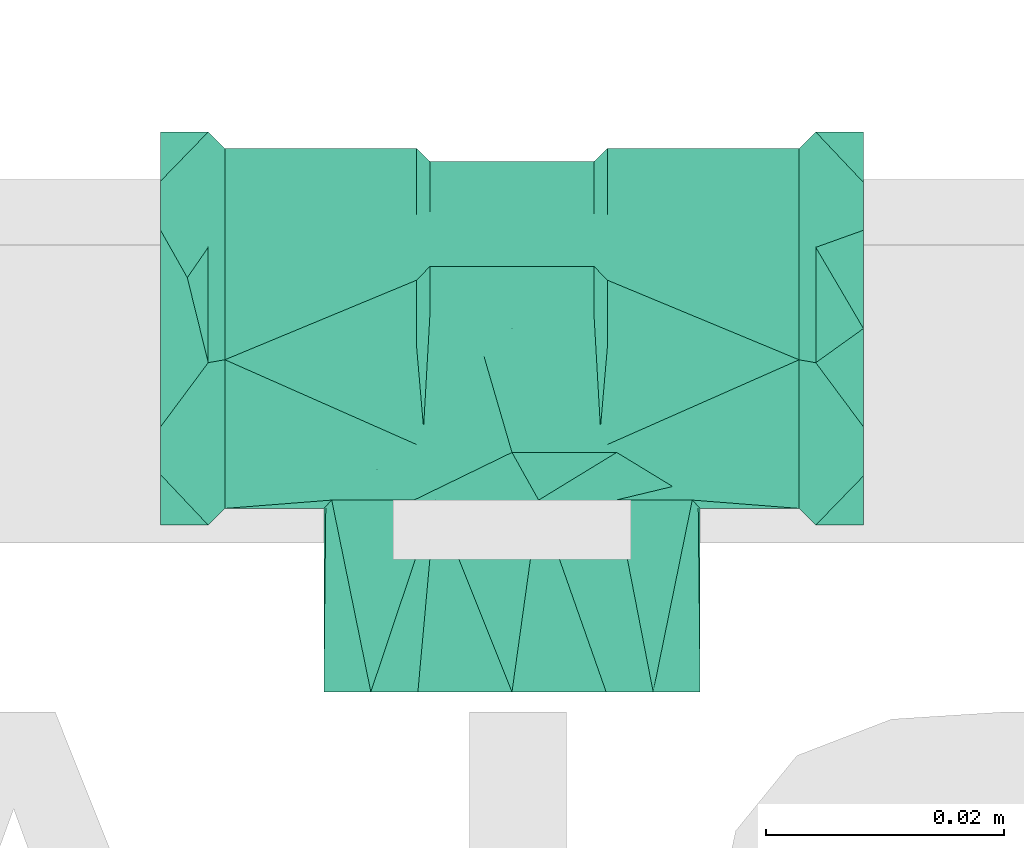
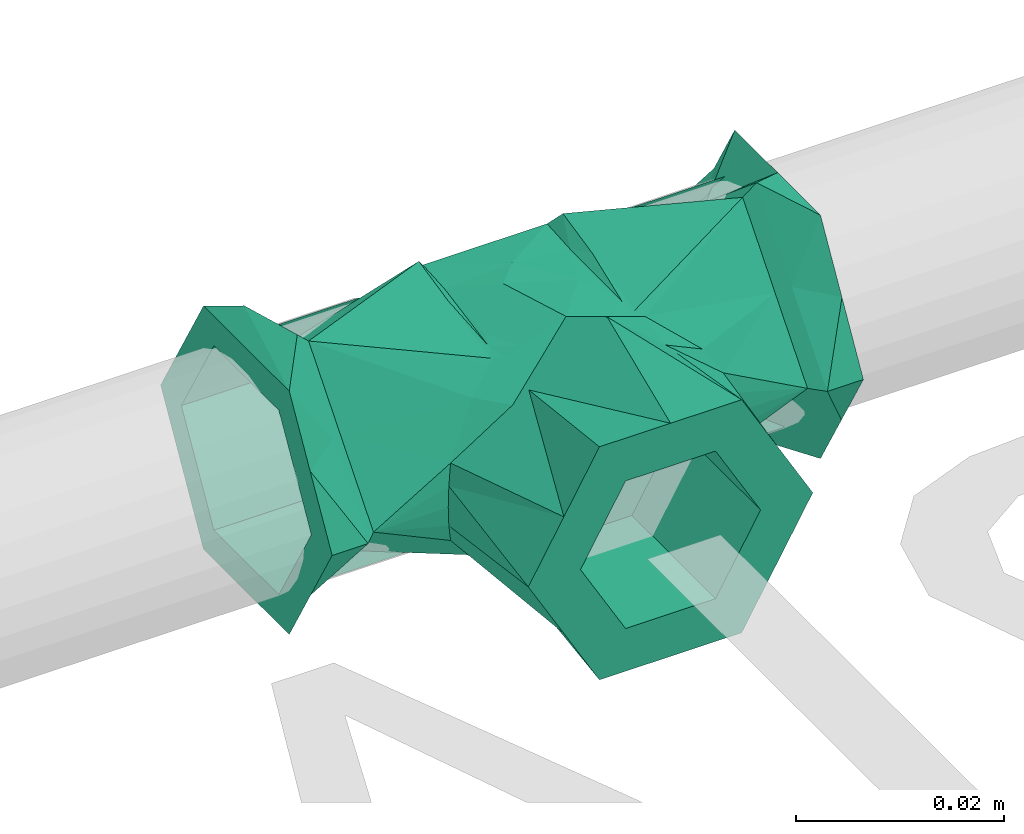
# One storey, part 349 of 589: 1 flow fitting.
"""IFC2X3 building model written with IfcOpenShell, lengths in millimetres."""

from ifc_helpers import new_model, entity, si_unit, converted_unit, derived_unit, direction, frame, origin, place, context, subcontext, project, spatial, faceted_brep, source, transform, mapped, material, type_object, type_shapes, element, save


model = new_model("IFC2X3")

# Units and contexts
model_context = context("Model", 3, precision=0.01, world=origin(), true_north=direction((6.123031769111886e-17, 1.0)))
body_context = subcontext(model_context, "Body", "Model", "MODEL_VIEW")
ifc_project = project(units=[si_unit("LENGTHUNIT", "METRE", prefix="MILLI"), si_unit("AREAUNIT", "SQUARE_METRE"), si_unit("VOLUMEUNIT", "CUBIC_METRE"), converted_unit("PLANEANGLEUNIT", "DEGREE", entity("IfcRatioMeasure", 0.017453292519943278), si_unit("PLANEANGLEUNIT", "RADIAN"), dimensions=[0, 0, 0, 0, 0, 0, 0]), si_unit("MASSUNIT", "GRAM", prefix="KILO"), derived_unit("MASSDENSITYUNIT", [(si_unit("MASSUNIT", "GRAM", prefix="KILO"), 1), (si_unit("LENGTHUNIT", "METRE"), -3)]), derived_unit("IONCONCENTRATIONUNIT", [(si_unit("MASSUNIT", "GRAM", prefix="KILO"), 1), (si_unit("LENGTHUNIT", "METRE"), -3)]), derived_unit("MOMENTOFINERTIAUNIT", [(si_unit("LENGTHUNIT", "METRE"), 4)]), si_unit("TIMEUNIT", "SECOND"), si_unit("FREQUENCYUNIT", "HERTZ"), si_unit("THERMODYNAMICTEMPERATUREUNIT", "DEGREE_CELSIUS"), derived_unit("THERMALTRANSMITTANCEUNIT", [(si_unit("MASSUNIT", "GRAM", prefix="KILO"), 1), (si_unit("THERMODYNAMICTEMPERATUREUNIT", "KELVIN"), -1), (si_unit("TIMEUNIT", "SECOND"), -3)]), derived_unit("THERMALCONDUCTANCEUNIT", [(si_unit("MASSUNIT", "GRAM", prefix="KILO"), 1), (si_unit("THERMODYNAMICTEMPERATUREUNIT", "KELVIN"), -1), (si_unit("TIMEUNIT", "SECOND"), -3), (si_unit("LENGTHUNIT", "METRE"), 1)]), derived_unit("VOLUMETRICFLOWRATEUNIT", [(si_unit("LENGTHUNIT", "METRE"), 3), (si_unit("TIMEUNIT", "SECOND"), -1)]), derived_unit("MASSFLOWRATEUNIT", [(si_unit("MASSUNIT", "GRAM", prefix="KILO"), 1), (si_unit("TIMEUNIT", "SECOND"), -1)]), derived_unit("ROTATIONALFREQUENCYUNIT", [(si_unit("TIMEUNIT", "SECOND"), -1)]), si_unit("ELECTRICCURRENTUNIT", "AMPERE"), si_unit("ELECTRICVOLTAGEUNIT", "VOLT"), si_unit("POWERUNIT", "WATT"), si_unit("FORCEUNIT", "NEWTON", prefix="KILO"), si_unit("ILLUMINANCEUNIT", "LUX"), si_unit("LUMINOUSFLUXUNIT", "LUMEN"), si_unit("LUMINOUSINTENSITYUNIT", "CANDELA"), derived_unit("USERDEFINED", [(si_unit("MASSUNIT", "GRAM", prefix="KILO"), -1), (si_unit("LENGTHUNIT", "METRE"), -2), (si_unit("TIMEUNIT", "SECOND"), 3), (si_unit("LUMINOUSFLUXUNIT", "LUMEN"), 1)]), derived_unit("USERDEFINED", [(si_unit("MASSUNIT", "GRAM", prefix="KILO"), 1), (si_unit("TIMEUNIT", "SECOND"), -3), (si_unit("LENGTHUNIT", "METRE"), 3), (si_unit("ELECTRICCURRENTUNIT", "AMPERE"), -2)]), derived_unit("SOUNDPOWERUNIT", [(si_unit("MASSUNIT", "GRAM", prefix="KILO"), 1), (si_unit("TIMEUNIT", "SECOND"), -3), (si_unit("LENGTHUNIT", "METRE"), 2)]), derived_unit("SOUNDPRESSUREUNIT", [(si_unit("MASSUNIT", "GRAM", prefix="KILO"), 1), (si_unit("LENGTHUNIT", "METRE"), -1), (si_unit("TIMEUNIT", "SECOND"), -2)]), derived_unit("LINEARVELOCITYUNIT", [(si_unit("LENGTHUNIT", "METRE"), 1), (si_unit("TIMEUNIT", "SECOND"), -1)]), si_unit("PRESSUREUNIT", "PASCAL"), derived_unit("USERDEFINED", [(si_unit("MASSUNIT", "GRAM", prefix="KILO"), 1), (si_unit("LENGTHUNIT", "METRE"), -2), (si_unit("TIMEUNIT", "SECOND"), -2)]), derived_unit("LINEARFORCEUNIT", [(si_unit("MASSUNIT", "GRAM", prefix="KILO"), 1), (si_unit("TIMEUNIT", "SECOND"), -2)]), derived_unit("PLANARFORCEUNIT", [(si_unit("MASSUNIT", "GRAM", prefix="KILO"), 1), (si_unit("LENGTHUNIT", "METRE"), -1), (si_unit("TIMEUNIT", "SECOND"), -2)]), derived_unit("SPECIFICHEATCAPACITYUNIT", [(si_unit("THERMODYNAMICTEMPERATUREUNIT", "KELVIN"), -1), (si_unit("LENGTHUNIT", "METRE"), 2), (si_unit("TIMEUNIT", "SECOND"), -2)]), derived_unit("HEATINGVALUEUNIT", [(si_unit("LENGTHUNIT", "METRE"), 2), (si_unit("TIMEUNIT", "SECOND"), -2)]), derived_unit("VAPORPERMEABILITYUNIT", [(si_unit("LENGTHUNIT", "METRE"), -1), (si_unit("TIMEUNIT", "SECOND"), 1)]), derived_unit("DYNAMICVISCOSITYUNIT", [(si_unit("MASSUNIT", "GRAM", prefix="KILO"), 1), (si_unit("TIMEUNIT", "SECOND"), -1), (si_unit("LENGTHUNIT", "METRE"), -1)]), derived_unit("THERMALEXPANSIONCOEFFICIENTUNIT", [(si_unit("THERMODYNAMICTEMPERATUREUNIT", "KELVIN"), -1)]), derived_unit("MODULUSOFELASTICITYUNIT", [(si_unit("MASSUNIT", "GRAM", prefix="KILO"), 1), (si_unit("LENGTHUNIT", "METRE"), -1), (si_unit("TIMEUNIT", "SECOND"), -2)]), derived_unit("ISOTHERMALMOISTURECAPACITYUNIT", [(si_unit("LENGTHUNIT", "METRE"), 3), (si_unit("MASSUNIT", "GRAM", prefix="KILO"), -1)]), derived_unit("MOISTUREDIFFUSIVITYUNIT", [(si_unit("TIMEUNIT", "SECOND"), -1), (si_unit("LENGTHUNIT", "METRE"), 2)])], contexts=[model_context])

# Site, building, storey
site_placement = place(None, origin())
site = spatial("IfcSite", under=ifc_project, at=site_placement, Name="Default", CompositionType="ELEMENT")
building_placement = place(site_placement, origin())
building = spatial("IfcBuilding", under=site, at=building_placement, CompositionType="ELEMENT")
storey_placement = place(building_placement, frame((0.0, 0.0, 100.0)))
storey = spatial("IfcBuildingStorey", under=building, at=storey_placement, Name="TÉRREO", CompositionType="ELEMENT", Elevation=100.0)

# Flow fitting
ifc_material = material(Name="PVC Azul")
pipe_fitting_type = type_object("IfcPipeFittingType", Name="PVC Marrom Soldável_Tê 90° Azul com Bucha de Latão_Rodrigo MEP:Tê_20x1/2''_ 25x1/2''_ 25x3/4''_ 32x3/4''", PredefinedType="NOTDEFINED", material=ifc_material)
shared_shape = source(origin(), body_context, "Body", "Brep", [
    faceted_brep([(-29.500000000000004, 6.250000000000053, -10.825317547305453), (-29.500000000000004, 12.5, 0.0), (-29.500000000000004, 8.250000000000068, -14.28941916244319), (-29.500000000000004, -6.249999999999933, -10.825317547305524), (-29.500000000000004, 12.26746212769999, -7.3309706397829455), (-29.500000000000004, 16.499999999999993, 0.0), (-29.500000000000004, 6.2500000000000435, 10.825317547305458), (-29.500000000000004, 12.375000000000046, 7.144709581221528), (-29.500000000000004, 8.25000000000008, 14.289419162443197), (-29.500000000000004, -6.249999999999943, 10.825317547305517), (-29.500000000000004, 0.0, 14.28941916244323), (-29.500000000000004, -8.249999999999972, 14.289419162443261), (-29.500000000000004, -12.267462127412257, 7.330970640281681), (-29.500000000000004, -16.500000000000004, 0.0), (-29.500000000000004, -12.5, 0.0), (-29.500000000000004, -8.250000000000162, -14.289419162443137), (-29.500000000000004, -12.37500000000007, -7.144709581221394), (-29.500000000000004, 0.0, -14.289419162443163), (-25.499999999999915, -6.816270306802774, 8.12446423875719), (-25.500000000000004, -16.500000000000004, 0.0), (29.500000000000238, -16.499999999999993, 0.0), (29.500000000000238, -12.374999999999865, 7.1447095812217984), (25.499999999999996, -16.500000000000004, 0.0), (-25.500000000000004, 16.500000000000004, 0.0), (29.500000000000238, 12.267462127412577, 7.330970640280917), (29.500000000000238, 16.500000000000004, 0.0), (25.500000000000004, 16.500000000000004, 0.0), (-25.499999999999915, 9.683729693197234, 8.12446423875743), (-25.49999999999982, 2.8674593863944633, 16.2489284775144), (-25.500000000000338, 11.139050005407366, 6.389835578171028), (-25.499999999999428, 6.818308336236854, -8.124823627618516), (29.500000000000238, 12.375000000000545, -7.144709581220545), (29.500000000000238, -12.267462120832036, -7.330970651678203), (-25.499999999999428, -9.681691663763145, -8.124823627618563), (-25.499999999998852, -2.8633833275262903, -16.249647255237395), (-25.499999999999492, -11.138410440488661, -6.388970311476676), (-24.100000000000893, 2.6241598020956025, 14.870231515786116), (-24.10000000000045, 8.862079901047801, 7.435115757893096), (-24.100000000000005, 15.1, 0.0), (-24.10000000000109, -15.099999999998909, 0.0), (-24.10000000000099, -6.237920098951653, 7.4351157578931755), (-24.09999999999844, -2.6204295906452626, -14.870889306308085), (-24.09999999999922, -8.86021479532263, -7.435444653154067), (-24.099999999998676, 6.2397852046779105, -7.435444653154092), (-8.0, -15.099999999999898, 0.0), (-8.0, -9.581515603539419, 7.271550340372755), (8.0, -15.1, 0.0), (24.100000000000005, -15.1, 0.0), (8.0, -9.581515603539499, 7.271550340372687), (-8.790426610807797, 10.399999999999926, 10.947602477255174), (-8.399674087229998, 10.07188784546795, 11.250203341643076), (-8.0, 9.741067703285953, 11.537833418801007), (-8.0, -4.063031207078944, 14.543100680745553), (-8.0, 1.634836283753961, 13.302627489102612), (-15.799999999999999, 15.100000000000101, 0.0), (-15.628969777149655, 14.92094823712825, 2.31847012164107), (-15.132415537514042, 14.399999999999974, 4.544227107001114), (-13.483951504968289, 13.258957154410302, 7.22565257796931), (-15.628969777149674, 14.920948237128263, -2.318470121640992), (-15.132415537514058, 14.4, -4.544227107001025), (-8.0, -8.488967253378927, -12.487891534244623), (-8.399674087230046, 10.071887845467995, -11.250203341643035), (-8.0, 0.6260502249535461, -12.012862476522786), (-8.790426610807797, 10.4, -10.947602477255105), (-11.321963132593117, 11.859027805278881, -9.347377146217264), (-8.0, 9.741067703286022, -11.537833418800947), (-8.0, 1.712474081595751, -11.95624350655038), (-8.0, -11.7944836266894, -6.2439457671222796), (-6.899999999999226, -8.801982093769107, -10.938313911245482), (-6.899999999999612, -11.42099104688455, -5.469156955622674), (-6.89999999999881, -0.9509910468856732, -11.582903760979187), (-6.8999999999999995, -14.039999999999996, 0.0), (-7.423714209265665, 8.338906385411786, -11.916797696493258), (-6.8999999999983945, 6.899999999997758, -12.22749361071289), (-6.8999999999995, -0.77622840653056, -11.597252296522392), (-7.423714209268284, 8.338906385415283, 11.916797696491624), (-6.900000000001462, -0.8452356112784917, 12.7471198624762), (-6.900000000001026, -5.204835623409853, 13.039604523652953), (-6.900000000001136, -9.62241781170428, 6.519802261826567), (-6.900000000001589, 2.9549650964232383, 12.492165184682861), (-6.900000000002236, 6.9000000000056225, 12.227493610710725), (-4.660597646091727, 4.660597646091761, 13.243882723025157), (0.0, 0.0, 14.04), (6.900000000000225, -5.204835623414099, 13.039604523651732), (6.900000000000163, -0.9900698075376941, 12.75683675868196), (6.900000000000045, 6.900000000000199, 12.227493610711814), (2.3472692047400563, 2.347269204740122, 13.842396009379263), (6.900000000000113, -9.622417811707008, 6.519802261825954), (6.9, -14.039999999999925, 0.0), (6.9000000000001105, -9.79884528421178, 6.2594172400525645), (6.899999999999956, -8.801982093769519, -10.938313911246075), (6.899999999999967, -10.687214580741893, -7.001468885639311), (0.0, 0.0, -14.04), (6.899999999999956, 3.061885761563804, -11.912372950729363), (6.899999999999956, -0.776228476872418, -11.59725229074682), (4.66059764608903, 4.660597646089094, -13.243882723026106), (6.899999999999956, 6.900000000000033, -12.227493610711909), (-2.347269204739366, 2.347269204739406, -13.842396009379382), (6.899999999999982, -0.9509910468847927, -11.582903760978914), (8.0, -4.063031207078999, 14.543100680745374), (7.423714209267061, 8.338906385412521, 11.91679769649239), (8.0, 1.6348361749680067, 13.302627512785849), (8.0, 9.741067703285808, 11.537833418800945), (8.0, -8.488967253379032, -12.487891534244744), (7.423714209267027, 8.33890638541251, -11.916797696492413), (8.0, -11.794483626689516, -6.243945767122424), (8.0, 1.7124741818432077, -11.956243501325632), (8.0, 9.741067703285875, -11.537833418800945), (8.0, 0.626050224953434, -12.012862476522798), (15.799999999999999, 15.1, 0.0), (15.62784391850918, 14.919768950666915, 2.326046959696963), (24.100000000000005, 15.1, 0.0), (15.132415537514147, 14.40000000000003, 4.54422710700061), (24.100000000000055, -6.239785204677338, 7.435444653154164), (24.1000000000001, 2.6204295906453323, 14.870889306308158), (24.100000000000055, 8.860214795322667, 7.435444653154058), (11.321963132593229, 11.859027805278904, 9.347377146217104), (8.79042661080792, 10.400000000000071, 10.94760247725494), (24.100000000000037, 10.193333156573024, 5.846875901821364), (8.399674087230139, 10.071887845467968, 11.250203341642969), (24.100000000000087, -8.86207990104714, -7.435115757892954), (8.3996740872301, 10.07188784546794, -11.250203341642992), (8.79042661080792, 10.4, -10.947602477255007), (24.100000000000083, 6.237920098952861, -7.435115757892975), (24.10000000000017, -2.6241598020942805, -14.870231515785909), (15.627843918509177, 14.919768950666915, -2.3260469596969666), (15.132415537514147, 14.4, -4.544227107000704), (24.100000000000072, -10.193918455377, -5.847667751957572), (13.483951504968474, 13.258957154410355, -7.225652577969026), (25.500000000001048, 6.816270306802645, -8.124464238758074), (25.50000000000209, -2.8674593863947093, -16.2489284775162), (25.500000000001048, -9.683729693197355, -8.124464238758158), (25.500000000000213, -6.8183083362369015, 8.124823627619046), (25.500000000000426, 2.863383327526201, 16.24964725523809), (25.50000000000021, 9.681691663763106, 8.12482362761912), (29.500000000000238, -6.250000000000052, -10.825317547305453), (29.500000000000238, -12.499999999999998, 0.0), (29.500000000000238, -8.249999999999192, -14.289419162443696), (29.500000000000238, 6.249999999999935, -10.825317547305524), (29.500000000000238, -6.250000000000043, 10.825317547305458), (29.500000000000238, -8.249999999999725, 14.289419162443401), (29.500000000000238, 6.249999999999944, 10.825317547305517), (29.500000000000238, 0.0, 14.289419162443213), (29.500000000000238, 8.250000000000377, 14.289419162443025), (29.500000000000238, 12.500000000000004, 0.0), (29.500000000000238, 8.250000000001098, -14.289419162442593), (29.500000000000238, 0.0, -14.289419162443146), (27.2563546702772, 4.268848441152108, -15.938222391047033), (27.25626714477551, -4.271846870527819, 15.93741899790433), (7.8445058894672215, 10.399999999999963, 11.280428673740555), (6.898585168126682, 10.399999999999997, 11.613254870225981), (0.0015667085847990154, 10.400000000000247, 14.039999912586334), (-5.006643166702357, 10.400000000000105, 12.27846816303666), (-7.844480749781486, 10.400000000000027, 11.280318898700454), (-8.317453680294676, 10.400000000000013, 11.113960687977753), (-6.89853488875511, 10.400000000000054, 11.613035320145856), (8.317466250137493, 10.399999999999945, 11.114015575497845), (5.0067437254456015, 10.400000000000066, 12.27890726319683), (5.006743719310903, 10.400000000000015, -12.27890726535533), (0.0015667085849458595, 10.400000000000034, -14.039999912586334), (7.844505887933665, 10.400000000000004, -11.280428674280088), (-7.844480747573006, 10.400000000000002, -11.280318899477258), (-6.898534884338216, 10.400000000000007, -11.613035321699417), (6.898585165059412, 10.40000000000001, -11.613254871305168), (8.317466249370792, 10.400000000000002, -11.114015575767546), (-5.006643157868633, 10.400000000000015, -12.27846816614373), (-8.317453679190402, 10.400000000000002, -11.113960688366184), (8.227072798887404, 14.4, 8.955792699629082), (6.447745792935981, 14.40000000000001, 10.09253827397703), (-2.23692395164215, 14.400000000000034, 15.640849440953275), (-8.724658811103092, 14.400000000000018, 10.058127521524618), (-8.226877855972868, 14.4, -8.95521977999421), (-6.446623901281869, 14.4, -10.092377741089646), (2.2391677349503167, 14.4, -15.640528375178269), (8.724965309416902, 14.4, -10.058663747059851), (5.0, 30.500000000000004, -8.660254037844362), (10.0, 30.500000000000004, 0.0), (7.899999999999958, 30.500000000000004, -13.683201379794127), (-5.0, 30.500000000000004, -8.660254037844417), (11.849999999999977, 30.500000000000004, -6.841600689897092), (15.799999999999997, 30.500000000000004, 0.0), (5.0, 30.500000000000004, 8.660254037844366), (11.84999999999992, 30.500000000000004, 6.841600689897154), (7.899999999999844, 30.500000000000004, 13.683201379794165), (-5.0, 30.500000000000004, 8.660254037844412), (0.0, 30.500000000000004, 13.683201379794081), (-7.900000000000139, 30.500000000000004, 13.683201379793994), (-11.850000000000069, 30.500000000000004, 6.841600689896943), (-15.799999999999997, 30.500000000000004, 0.0), (-10.0, 30.500000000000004, 0.0), (-7.900000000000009, 30.500000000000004, -13.683201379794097), (-11.850000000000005, 30.500000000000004, -6.841600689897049), (0.0, 30.500000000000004, -13.683201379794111), (-13.400000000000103, 6.24999999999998, -10.825317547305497), (-13.400000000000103, -6.250000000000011, -10.82531754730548), (-13.400000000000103, -12.5, 0.0), (-13.400000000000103, -6.2499999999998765, 10.825317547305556), (-13.400000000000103, 6.250000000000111, 10.825317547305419), (-13.400000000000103, 12.5, 0.0), (13.400000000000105, 6.249999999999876, 10.825317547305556), (13.400000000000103, 12.5, 0.0), (13.400000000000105, -6.250000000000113, 10.825317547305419), (13.400000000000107, -12.5, 0.0), (13.400000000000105, -6.2499999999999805, -10.825317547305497), (13.400000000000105, 6.25000000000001, -10.82531754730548), (5.0, 14.399999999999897, -8.660254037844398), (-5.0, 14.399999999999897, -8.660254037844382), (-10.0, 14.399999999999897, 0.0), (-5.0, 14.399999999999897, 8.660254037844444), (5.0, 14.399999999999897, 8.660254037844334), (10.0, 14.399999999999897, 0.0)], [[[0, 1, 2]], [[3, 0, 2]], [[1, 4, 2]], [[1, 5, 4]], [[5, 1, 6]], [[6, 7, 5]], [[6, 8, 7]], [[9, 8, 6]], [[9, 10, 8]], [[9, 11, 10]], [[9, 12, 11]], [[9, 13, 12]], [[9, 14, 13]], [[14, 3, 15]], [[14, 15, 16]], [[14, 16, 13]], [[3, 2, 17]], [[3, 17, 15]], [[11, 12, 18]], [[12, 19, 18]], [[12, 13, 19]], [[20, 21, 22]], [[5, 7, 23]], [[24, 25, 26]], [[27, 8, 28]], [[7, 8, 27]], [[7, 27, 29, 23]], [[28, 10, 18]], [[8, 10, 28]], [[10, 11, 18]], [[2, 4, 30]], [[4, 23, 30]], [[4, 5, 23]], [[25, 31, 26]], [[13, 16, 19]], [[32, 20, 22]], [[33, 15, 34]], [[16, 15, 33]], [[16, 33, 35, 19]], [[17, 2, 34, 15]], [[2, 30, 34]], [[36, 37, 38, 23, 29, 27, 28]], [[28, 18, 19, 39, 40, 36]], [[41, 42, 39, 19, 35, 33, 34]], [[34, 30, 23, 38, 43, 41]], [[39, 44, 45]], [[46, 47, 48]], [[49, 36, 50]], [[50, 36, 51]], [[45, 52, 40]], [[36, 52, 53, 51]], [[54, 38, 55]], [[56, 55, 38]], [[45, 40, 39]], [[56, 37, 57]], [[49, 37, 36]], [[49, 57, 37]], [[52, 36, 40]], [[56, 38, 37]], [[54, 58, 38]], [[59, 38, 58]], [[42, 41, 60]], [[61, 62, 63]], [[43, 59, 64]], [[43, 38, 59]], [[43, 62, 41]], [[62, 43, 63]], [[64, 63, 43]], [[42, 44, 39]], [[61, 65, 66, 62]], [[42, 60, 67, 44]], [[62, 60, 41]], [[67, 60, 68]], [[68, 69, 67]], [[70, 68, 60]], [[44, 69, 71]], [[70, 60, 62, 66]], [[66, 65, 72]], [[67, 69, 44]], [[70, 66, 72]], [[72, 73, 74, 70]], [[75, 53, 76]], [[52, 45, 77]], [[71, 78, 44]], [[78, 45, 44]], [[75, 76, 79, 80]], [[78, 77, 45]], [[75, 51, 53]], [[52, 77, 76]], [[52, 76, 53]], [[81, 76, 82]], [[82, 83, 84]], [[79, 76, 81, 80]], [[84, 85, 86]], [[87, 83, 77, 78, 71, 88, 89]], [[83, 82, 77]], [[82, 76, 77]], [[84, 86, 82]], [[71, 69, 68, 90, 91, 88]], [[68, 92, 90]], [[93, 94, 95, 96]], [[74, 73, 97]], [[95, 94, 92]], [[92, 68, 70, 74]], [[92, 74, 97]], [[92, 94, 98, 90]], [[89, 88, 46]], [[99, 83, 48]], [[100, 85, 84]], [[48, 89, 46]], [[84, 99, 101]], [[101, 102, 100]], [[48, 83, 87, 89]], [[84, 101, 100]], [[99, 84, 83]], [[103, 90, 98]], [[104, 98, 94, 93, 96]], [[105, 91, 103]], [[105, 46, 88]], [[106, 98, 104]], [[91, 105, 88]], [[90, 103, 91]], [[107, 106, 104]], [[98, 106, 108, 103]], [[109, 110, 111]], [[112, 111, 110]], [[113, 114, 99]], [[113, 99, 48]], [[115, 112, 116]], [[116, 117, 114]], [[112, 115, 118, 111]], [[114, 115, 116]], [[114, 119, 102]], [[117, 119, 114]], [[114, 102, 101, 99]], [[113, 48, 47]], [[120, 46, 105, 103]], [[108, 121, 122]], [[123, 108, 122]], [[124, 108, 123]], [[124, 103, 108]], [[109, 111, 125]], [[126, 125, 111]], [[46, 120, 127, 47]], [[128, 123, 122]], [[121, 108, 106, 107]], [[126, 123, 128]], [[103, 124, 120]], [[126, 111, 123]], [[26, 129, 130, 124, 123, 111]], [[130, 131, 22, 47, 127, 120, 124]], [[22, 132, 133, 114, 113, 47]], [[133, 134, 26, 111, 118, 115, 114]], [[135, 136, 137]], [[138, 135, 137]], [[136, 32, 137]], [[136, 20, 32]], [[20, 136, 139]], [[139, 21, 20]], [[139, 140, 21]], [[141, 140, 139]], [[141, 142, 140]], [[141, 143, 142]], [[141, 24, 143]], [[141, 25, 24]], [[141, 144, 25]], [[144, 138, 145]], [[144, 145, 31]], [[144, 31, 25]], [[138, 137, 146]], [[138, 146, 145]], [[130, 137, 131]], [[130, 147, 137]], [[32, 22, 131]], [[129, 31, 147]], [[31, 129, 26]], [[129, 147, 130]], [[146, 137, 147, 145]], [[145, 147, 31]], [[32, 131, 137]], [[133, 143, 134]], [[133, 148, 143]], [[24, 26, 134]], [[132, 21, 148]], [[21, 132, 22]], [[132, 148, 133]], [[142, 143, 148, 140]], [[140, 148, 21]], [[24, 134, 143]], [[102, 149, 150]], [[81, 151, 152]], [[153, 50, 51]], [[100, 102, 150]], [[119, 149, 102]], [[81, 152, 80]], [[153, 154, 49, 50]], [[75, 80, 152]], [[82, 86, 81]], [[75, 155, 51]], [[119, 117, 156, 149]], [[51, 155, 153]], [[150, 157, 100]], [[85, 151, 86]], [[155, 75, 152]], [[85, 157, 151]], [[157, 85, 100]], [[81, 86, 151]], [[158, 95, 159]], [[107, 160, 121]], [[65, 161, 162]], [[61, 161, 65]], [[163, 107, 104]], [[160, 164, 122, 121]], [[96, 158, 104]], [[95, 158, 96]], [[72, 65, 162]], [[95, 97, 159]], [[163, 104, 158]], [[72, 162, 165]], [[166, 161, 61, 63]], [[107, 163, 160]], [[92, 97, 95]], [[159, 97, 73]], [[73, 165, 159]], [[165, 73, 72]], [[116, 151, 157, 150, 149, 156, 117]], [[116, 112, 167]], [[151, 167, 168, 169]], [[49, 170, 57]], [[170, 56, 57]], [[116, 167, 151]], [[170, 49, 169]], [[169, 49, 154, 153, 155, 152, 151]], [[64, 159, 165, 162, 161, 166, 63]], [[64, 59, 171]], [[159, 171, 172, 173]], [[122, 174, 128]], [[174, 126, 128]], [[64, 171, 159]], [[174, 122, 173]], [[173, 122, 164, 160, 163, 158, 159]], [[175, 176, 177]], [[178, 175, 177]], [[176, 179, 177]], [[176, 180, 179]], [[180, 176, 181]], [[181, 182, 180]], [[181, 183, 182]], [[184, 183, 181]], [[184, 185, 183]], [[184, 186, 185]], [[184, 187, 186]], [[184, 188, 187]], [[184, 189, 188]], [[189, 178, 190]], [[189, 190, 191]], [[189, 191, 188]], [[178, 177, 192]], [[178, 192, 190]], [[187, 188, 55]], [[56, 187, 55]], [[187, 170, 186]], [[54, 55, 188]], [[183, 168, 182]], [[169, 185, 186]], [[182, 110, 180]], [[180, 110, 109]], [[110, 182, 112]], [[183, 185, 168]], [[170, 169, 186]], [[168, 185, 169]], [[170, 187, 56]], [[182, 168, 167, 112]], [[179, 180, 125]], [[126, 179, 125]], [[179, 174, 177]], [[109, 125, 180]], [[190, 172, 191]], [[173, 192, 177]], [[191, 58, 188]], [[188, 58, 54]], [[58, 191, 59]], [[190, 192, 172]], [[174, 173, 177]], [[172, 192, 173]], [[174, 179, 126]], [[191, 172, 171, 59]], [[193, 194, 195, 196, 197, 198]], [[198, 197, 6, 1]], [[199, 200, 144, 141]], [[197, 196, 9, 6]], [[201, 199, 141, 139]], [[196, 195, 14, 9]], [[202, 201, 139, 136]], [[195, 194, 3, 14]], [[203, 202, 136, 135]], [[194, 193, 0, 3]], [[204, 203, 135, 138]], [[193, 198, 1, 0]], [[200, 204, 138, 144]], [[203, 204, 200, 199, 201, 202]], [[205, 206, 207, 208, 209, 210]], [[210, 209, 181, 176]], [[209, 208, 184, 181]], [[208, 207, 189, 184]], [[207, 206, 178, 189]], [[206, 205, 175, 178]], [[205, 210, 176, 175]]]),
])
type_shapes(pipe_fitting_type, [shared_shape])
flow_fitting_placement = place(storey_placement, frame((-6093.305500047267, -4322.125782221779, 600.0), z_axis=(0.0, 0.0, 1.0), x_axis=(-1.0, 0.0, 0.0)))
element("IfcFlowFitting", 1, at=flow_fitting_placement, inside=storey, type_object=pipe_fitting_type, material=ifc_material, Name="PVC Marrom Soldável_Tê 90° Azul com Bucha de Latão_Rodrigo MEP:Tê_20x1/2''_ 25x1/2''_ 25x3/4''_ 32x3/4''", ObjectType="PVC Marrom Soldável_Tê 90° Azul com Bucha de Latão_Rodrigo MEP:Tê_20x1/2''_ 25x1/2''_ 25x3/4''_ 32x3/4''", context=body_context, shape_type="MappedRepresentation", body=[
    mapped(shared_shape, transform((0.0, 0.0, 0.0), scale=1.0)),
])

save(model, "model.ifc")
